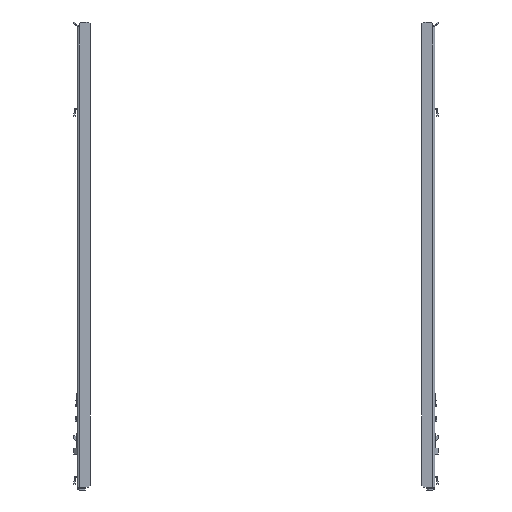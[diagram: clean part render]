
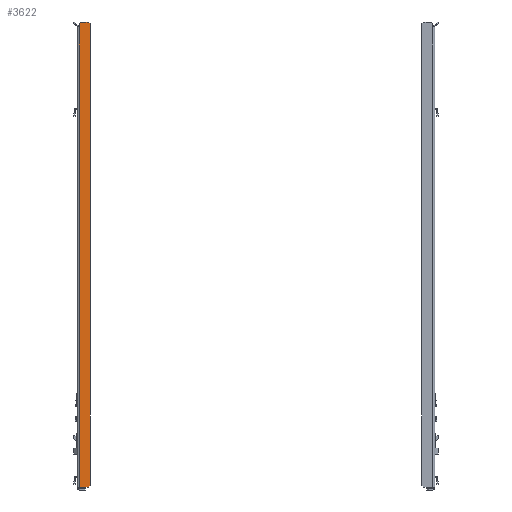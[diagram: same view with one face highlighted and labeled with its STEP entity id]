
A CAD part, front view. The second image highlights one B-rep face of the part: STEP entity #3622.
In plain terms, the highlighted planar face has unit normal (0.018, -1, 0).
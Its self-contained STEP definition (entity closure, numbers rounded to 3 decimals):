
#1=CARTESIAN_POINT('',(3.981,0.069,351.431));
#2=DIRECTION('',(-0.017,1.,0.));
#3=DIRECTION('',(-1.,-0.017,0.));
#4=AXIS2_PLACEMENT_3D('',#1,#2,#3);
#6=DIRECTION('',(0.707,0.012,0.707));
#7=VECTOR('',#6,3.414);
#8=CARTESIAN_POINT('',(3.274,0.057,352.138));
#9=LINE('',#8,#7);
#10=CARTESIAN_POINT('',(6.395,0.112,353.845));
#11=DIRECTION('',(-0.017,1.,0.));
#12=DIRECTION('',(-0.707,-0.012,0.707));
#13=AXIS2_PLACEMENT_3D('',#10,#11,#12);
#15=DIRECTION('',(1.,0.017,0.));
#16=VECTOR('',#15,10.193);
#17=CARTESIAN_POINT('',(6.395,0.112,354.845));
#18=LINE('',#17,#16);
#19=CARTESIAN_POINT('',(16.586,0.29,353.845));
#20=DIRECTION('',(-0.017,1.,0.));
#21=DIRECTION('',(0.,0.,1.));
#22=AXIS2_PLACEMENT_3D('',#19,#20,#21);
#24=DIRECTION('',(0.707,0.012,-0.707));
#25=VECTOR('',#24,3.414);
#26=CARTESIAN_POINT('',(17.293,0.302,354.552));
#27=LINE('',#26,#25);
#28=CARTESIAN_POINT('',(19.,0.332,351.431));
#29=DIRECTION('',(-0.017,1.,0.));
#30=DIRECTION('',(0.707,0.012,0.707));
#31=AXIS2_PLACEMENT_3D('',#28,#29,#30);
#33=CARTESIAN_POINT('',(19.,0.332,-348.991));
#34=DIRECTION('',(-0.017,1.,0.));
#35=DIRECTION('',(1.,0.017,0.));
#36=AXIS2_PLACEMENT_3D('',#33,#34,#35);
#38=DIRECTION('',(-0.707,-0.012,-0.707));
#39=VECTOR('',#38,3.414);
#40=CARTESIAN_POINT('',(19.707,0.344,-349.698));
#41=LINE('',#40,#39);
#42=CARTESIAN_POINT('',(16.586,0.29,-351.405));
#43=DIRECTION('',(-0.017,1.,0.));
#44=DIRECTION('',(0.707,0.012,-0.707));
#45=AXIS2_PLACEMENT_3D('',#42,#43,#44);
#47=DIRECTION('',(-1.,-0.017,0.));
#48=VECTOR('',#47,13.607);
#49=CARTESIAN_POINT('',(16.586,0.29,-352.405));
#50=LINE('',#49,#48);
#55=DIRECTION('',(0.,0.,1.));
#56=VECTOR('',#55,4.056);
#57=CARTESIAN_POINT('',(2.981,0.052,347.375));
#58=LINE('',#57,#56);
#80=DIRECTION('',(0.,0.,1.));
#81=VECTOR('',#80,699.78);
#82=CARTESIAN_POINT('',(2.981,0.052,-352.405));
#83=LINE('',#82,#81);
#122=DIRECTION('',(0.,0.,-1.));
#123=VECTOR('',#122,700.422);
#124=CARTESIAN_POINT('',(20.,0.349,351.431));
#125=LINE('',#124,#123);
#2910=CARTESIAN_POINT('',(2.981,0.052,347.375));
#2912=VERTEX_POINT('',#2910);
#3133=CARTESIAN_POINT('',(2.981,0.052,351.431));
#3134=CARTESIAN_POINT('',(3.274,0.057,352.138));
#3135=VERTEX_POINT('',#3133);
#3136=VERTEX_POINT('',#3134);
#3141=CARTESIAN_POINT('',(16.586,0.29,354.845));
#3142=CARTESIAN_POINT('',(17.293,0.302,354.552));
#3143=VERTEX_POINT('',#3141);
#3144=VERTEX_POINT('',#3142);
#3153=CARTESIAN_POINT('',(19.707,0.344,352.138));
#3154=VERTEX_POINT('',#3153);
#3155=CARTESIAN_POINT('',(20.,0.349,351.431));
#3156=VERTEX_POINT('',#3155);
#3173=CARTESIAN_POINT('',(20.,0.349,-348.991));
#3174=CARTESIAN_POINT('',(19.707,0.344,
-349.698));
#3175=VERTEX_POINT('',#3173);
#3176=VERTEX_POINT('',#3174);
#3249=CARTESIAN_POINT('',(5.688,0.099,354.552));
#3250=VERTEX_POINT('',#3249);
#3251=CARTESIAN_POINT('',(6.395,0.112,354.845));
#3252=VERTEX_POINT('',#3251);
#3363=CARTESIAN_POINT('',(2.981,0.052,-352.405));
#3365=VERTEX_POINT('',#3363);
#3367=CARTESIAN_POINT('',(17.293,0.302,
-352.112));
#3368=CARTESIAN_POINT('',(16.586,0.29,-352.405));
#3369=VERTEX_POINT('',#3367);
#3370=VERTEX_POINT('',#3368);
#3587=CARTESIAN_POINT('',(2.981,0.052,353.475));
#3588=DIRECTION('',(-0.017,1.,0.));
#3589=DIRECTION('',(1.,0.017,0.));
#3590=AXIS2_PLACEMENT_3D('',#3587,#3588,#3589);
#3591=PLANE('',#3590);
#3593=ORIENTED_EDGE('',*,*,#3592,.T.);
#3595=ORIENTED_EDGE('',*,*,#3594,.T.);
#3597=ORIENTED_EDGE('',*,*,#3596,.T.);
#3599=ORIENTED_EDGE('',*,*,#3598,.T.);
#3601=ORIENTED_EDGE('',*,*,#3600,.T.);
#3603=ORIENTED_EDGE('',*,*,#3602,.T.);
#3605=ORIENTED_EDGE('',*,*,#3604,.T.);
#3607=ORIENTED_EDGE('',*,*,#3606,.T.);
#3609=ORIENTED_EDGE('',*,*,#3608,.T.);
#3611=ORIENTED_EDGE('',*,*,#3610,.T.);
#3613=ORIENTED_EDGE('',*,*,#3612,.T.);
#3615=ORIENTED_EDGE('',*,*,#3614,.T.);
#3617=ORIENTED_EDGE('',*,*,#3616,.T.);
#3619=ORIENTED_EDGE('',*,*,#3618,.T.);
#3620=EDGE_LOOP('',(#3593,#3595,#3597,#3599,#3601,#3603,#3605,#3607,#3609,#3611,
#3613,#3615,#3617,#3619));
#3621=FACE_OUTER_BOUND('',#3620,.F.);
#3622=ADVANCED_FACE('',(#3621),#3591,.F.);
#5=CIRCLE('',#4,1.);
#14=CIRCLE('',#13,1.);
#23=CIRCLE('',#22,1.);
#32=CIRCLE('',#31,1.);
#37=CIRCLE('',#36,1.);
#46=CIRCLE('',#45,1.);
#3592=EDGE_CURVE('',#3135,#3136,#5,.T.);
#3594=EDGE_CURVE('',#3136,#3250,#9,.T.);
#3596=EDGE_CURVE('',#3250,#3252,#14,.T.);
#3598=EDGE_CURVE('',#3252,#3143,#18,.T.);
#3600=EDGE_CURVE('',#3143,#3144,#23,.T.);
#3602=EDGE_CURVE('',#3144,#3154,#27,.T.);
#3604=EDGE_CURVE('',#3154,#3156,#32,.T.);
#3606=EDGE_CURVE('',#3156,#3175,#125,.T.);
#3608=EDGE_CURVE('',#3175,#3176,#37,.T.);
#3610=EDGE_CURVE('',#3176,#3369,#41,.T.);
#3612=EDGE_CURVE('',#3369,#3370,#46,.T.);
#3614=EDGE_CURVE('',#3370,#3365,#50,.T.);
#3616=EDGE_CURVE('',#3365,#2912,#83,.T.);
#3618=EDGE_CURVE('',#2912,#3135,#58,.T.);
